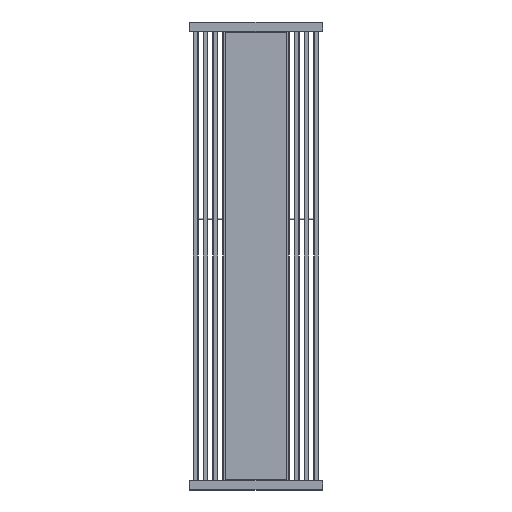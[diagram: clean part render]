
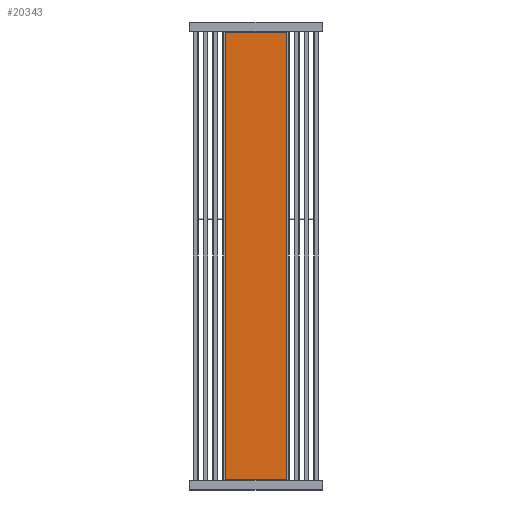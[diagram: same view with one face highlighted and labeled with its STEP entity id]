
A CAD part, front view. The second image highlights one B-rep face of the part: STEP entity #20343.
In plain terms, the highlighted planar face has unit normal (0, -1, 0).
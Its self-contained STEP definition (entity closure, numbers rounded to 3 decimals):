
#20158=CARTESIAN_POINT('',(-124.,-17.,42.5));
#20159=VERTEX_POINT('',#20158);
#20160=CARTESIAN_POINT('',(-124.,-17.,1857.5));
#20161=VERTEX_POINT('',#20160);
#20162=CARTESIAN_POINT('',(-124.,-17.,42.5));
#20163=DIRECTION('',(0.0,0.0,1.0));
#20164=VECTOR('',#20163,1815.0);
#20165=LINE('',#20162,#20164);
#20166=EDGE_CURVE('',#20159,#20161,#20165,.T.);
#20198=CARTESIAN_POINT('',(124.,-17.,1857.5));
#20199=VERTEX_POINT('',#20198);
#20200=CARTESIAN_POINT('',(-124.,-17.,1857.5));
#20201=DIRECTION('',(1.0,0.0,0.0));
#20202=VECTOR('',#20201,248.);
#20203=LINE('',#20200,#20202);
#20204=EDGE_CURVE('',#20161,#20199,#20203,.T.);
#20229=CARTESIAN_POINT('',(124.,-17.,42.5));
#20230=VERTEX_POINT('',#20229);
#20231=CARTESIAN_POINT('',(124.,-17.,1857.5));
#20232=DIRECTION('',(0.0,0.0,-1.0));
#20233=VECTOR('',#20232,1815.0);
#20234=LINE('',#20231,#20233);
#20235=EDGE_CURVE('',#20199,#20230,#20234,.T.);
#20260=CARTESIAN_POINT('',(124.,-17.,42.5));
#20261=DIRECTION('',(-1.0,0.0,0.0));
#20262=VECTOR('',#20261,248.);
#20263=LINE('',#20260,#20262);
#20264=EDGE_CURVE('',#20230,#20159,#20263,.T.);
#20332=CARTESIAN_POINT('',(0.,-17.,950.));
#20333=DIRECTION('',(0.0,-1.0,0.0));
#20334=DIRECTION('',(-1.0,0.0,0.0));
#20335=AXIS2_PLACEMENT_3D('',#20332,#20333,#20334);
#20336=PLANE('',#20335);
#20337=ORIENTED_EDGE('',*,*,#20166,.F.);
#20338=ORIENTED_EDGE('',*,*,#20264,.F.);
#20339=ORIENTED_EDGE('',*,*,#20235,.F.);
#20340=ORIENTED_EDGE('',*,*,#20204,.F.);
#20341=EDGE_LOOP('',(#20337,#20338,#20339,#20340));
#20342=FACE_OUTER_BOUND('',#20341,.T.);
#20343=ADVANCED_FACE('',(#20342),#20336,.T.);
